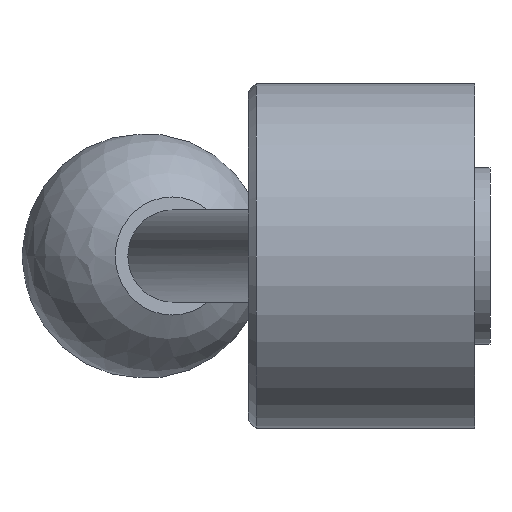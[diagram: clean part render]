
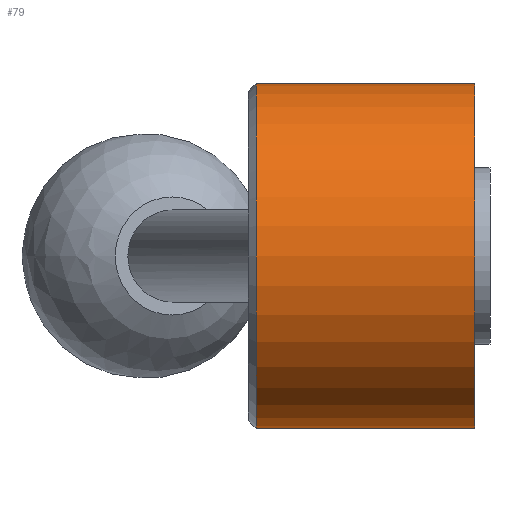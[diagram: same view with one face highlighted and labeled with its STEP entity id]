
A CAD part, left-side view. The second image highlights one B-rep face of the part: STEP entity #79.
In plain terms, the highlighted cylindrical face has radius 22.5 mm (diameter 45 mm), a full revolution.
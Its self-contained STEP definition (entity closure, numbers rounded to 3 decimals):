
#79 = ADVANCED_FACE( '', ( #103, #104, #105 ), #106, .T. );
#103 = FACE_OUTER_BOUND( '', #148, .T. );
#104 = FACE_BOUND( '', #149, .T. );
#105 = FACE_OUTER_BOUND( '', #150, .T. );
#106 = CYLINDRICAL_SURFACE( '', #151, 22.5 );
#148 = EDGE_LOOP( '', ( #201 ) );
#149 = EDGE_LOOP( '', ( #202 ) );
#150 = EDGE_LOOP( '', ( #203 ) );
#151 = AXIS2_PLACEMENT_3D( '', #204, #205, #206 );
#201 = ORIENTED_EDGE( '', *, *, #263, .F. );
#202 = ORIENTED_EDGE( '', *, *, #261, .F. );
#203 = ORIENTED_EDGE( '', *, *, #264, .T. );
#204 = CARTESIAN_POINT( '', ( 0., 0., 0. ) );
#205 = DIRECTION( '', ( 0., 1., 0. ) );
#206 = DIRECTION( '', ( 0., 0., -1. ) );
#261 = EDGE_CURVE( '', #280, #280, #281, .T. );
#263 = EDGE_CURVE( '', #284, #284, #285, .T. );
#264 = EDGE_CURVE( '', #286, #286, #287, .T. );
#280 = VERTEX_POINT( '', #308 );
#281 = B_SPLINE_CURVE_WITH_KNOTS( '', 3, ( #309, #310, #311, #312, #313, #314, #315, #316, #317, #318, #319, #320, #321, #322, #323, #324, #325, #326, #327, #328, #329, #330, #331, #332, #333, #334, #335, #336, #337, #338, #339, #340, #341, #342, #343, #344, #345, #346, #347, #348, #349, #350, #351, #352, #353, #354, #355, #356, #357, #358, #359, #360, #361, #362, #363, #364, #365, #366, #367, #368, #369, #370, #371, #372, #373, #374, #375, #376, #377, #378, #379, #380, #381, #382, #383, #384, #385, #386, #387, #388, #389, #390, #391, #392 ), .UNSPECIFIED., .T., .F., ( 2, 2, 2, 2, 2, 2, 2, 2, 2, 2, 2, 2, 2, 2, 2, 2, 2, 2, 2, 2, 2, 2, 2, 2, 2, 2, 2, 2, 2, 2, 2, 2, 2, 2, 2, 2, 2, 2, 2, 2, 2, 2, 2, 2 ), ( -0.001, 0., 0.001, 0.002, 0.002, 0.004, 0.004, 0.005, 0.006, 0.007, 0.008, 0.008, 0.009, 0.011, 0.012, 0.012, 0.013, 0.014, 0.014, 0.015, 0.016, 0.018, 0.018, 0.019, 0.02, 0.021, 0.022, 0.024, 0.024, 0.025, 0.026, 0.027, 0.028, 0.028, 0.029, 0.031, 0.032, 0.033, 0.034, 0.034, 0.035, 0.037, 0.038, 0.039 ), .UNSPECIFIED. );
#284 = VERTEX_POINT( '', #395 );
#285 = CIRCLE( '', #396, 22.5 );
#286 = VERTEX_POINT( '', #397 );
#287 = CIRCLE( '', #398, 22.5 );
#308 = CARTESIAN_POINT( '', ( 21.685, 20., 6. ) );
#309 = CARTESIAN_POINT( '', ( 21.685, 20.398, 6. ) );
#310 = CARTESIAN_POINT( '', ( 21.685, 19.602, 6. ) );
#311 = CARTESIAN_POINT( '', ( 21.696, 19.21, 5.961 ) );
#312 = CARTESIAN_POINT( '', ( 21.727, 18.633, 5.846 ) );
#313 = CARTESIAN_POINT( '', ( 21.74, 18.443, 5.798 ) );
#314 = CARTESIAN_POINT( '', ( 21.771, 18.065, 5.683 ) );
#315 = CARTESIAN_POINT( '', ( 21.788, 17.878, 5.616 ) );
#316 = CARTESIAN_POINT( '', ( 21.846, 17.334, 5.389 ) );
#317 = CARTESIAN_POINT( '', ( 21.891, 16.99, 5.205 ) );
#318 = CARTESIAN_POINT( '', ( 21.965, 16.502, 4.878 ) );
#319 = CARTESIAN_POINT( '', ( 21.991, 16.343, 4.761 ) );
#320 = CARTESIAN_POINT( '', ( 22.044, 16.039, 4.511 ) );
#321 = CARTESIAN_POINT( '', ( 22.07, 15.895, 4.38 ) );
#322 = CARTESIAN_POINT( '', ( 22.149, 15.482, 3.967 ) );
#323 = CARTESIAN_POINT( '', ( 22.202, 15.234, 3.666 ) );
#324 = CARTESIAN_POINT( '', ( 22.3, 14.795, 3.011 ) );
#325 = CARTESIAN_POINT( '', ( 22.345, 14.61, 2.664 ) );
#326 = CARTESIAN_POINT( '', ( 22.4, 14.385, 2.123 ) );
#327 = CARTESIAN_POINT( '', ( 22.417, 14.319, 1.939 ) );
#328 = CARTESIAN_POINT( '', ( 22.446, 14.204, 1.563 ) );
#329 = CARTESIAN_POINT( '', ( 22.459, 14.155, 1.369 ) );
#330 = CARTESIAN_POINT( '', ( 22.49, 14.039, 0.788 ) );
#331 = CARTESIAN_POINT( '', ( 22.5, 14., 0.397 ) );
#332 = CARTESIAN_POINT( '', ( 22.5, 14., -0.39 ) );
#333 = CARTESIAN_POINT( '', ( 22.489, 14.039, -0.789 ) );
#334 = CARTESIAN_POINT( '', ( 22.449, 14.193, -1.56 ) );
#335 = CARTESIAN_POINT( '', ( 22.42, 14.307, -1.935 ) );
#336 = CARTESIAN_POINT( '', ( 22.363, 14.534, -2.482 ) );
#337 = CARTESIAN_POINT( '', ( 22.343, 14.619, -2.661 ) );
#338 = CARTESIAN_POINT( '', ( 22.299, 14.804, -3.007 ) );
#339 = CARTESIAN_POINT( '', ( 22.276, 14.905, -3.174 ) );
#340 = CARTESIAN_POINT( '', ( 22.227, 15.121, -3.498 ) );
#341 = CARTESIAN_POINT( '', ( 22.202, 15.238, -3.655 ) );
#342 = CARTESIAN_POINT( '', ( 22.15, 15.486, -3.957 ) );
#343 = CARTESIAN_POINT( '', ( 22.123, 15.619, -4.104 ) );
#344 = CARTESIAN_POINT( '', ( 22.043, 16.035, -4.52 ) );
#345 = CARTESIAN_POINT( '', ( 21.99, 16.336, -4.767 ) );
#346 = CARTESIAN_POINT( '', ( 21.892, 16.984, -5.202 ) );
#347 = CARTESIAN_POINT( '', ( 21.845, 17.336, -5.39 ) );
#348 = CARTESIAN_POINT( '', ( 21.769, 18.059, -5.691 ) );
#349 = CARTESIAN_POINT( '', ( 21.738, 18.433, -5.805 ) );
#350 = CARTESIAN_POINT( '', ( 21.707, 19.013, -5.922 ) );
#351 = CARTESIAN_POINT( '', ( 21.699, 19.211, -5.951 ) );
#352 = CARTESIAN_POINT( '', ( 21.688, 19.605, -5.99 ) );
#353 = CARTESIAN_POINT( '', ( 21.685, 19.801, -6. ) );
#354 = CARTESIAN_POINT( '', ( 21.685, 20.39, -6. ) );
#355 = CARTESIAN_POINT( '', ( 21.696, 20.782, -5.962 ) );
#356 = CARTESIAN_POINT( '', ( 21.738, 21.562, -5.807 ) );
#357 = CARTESIAN_POINT( '', ( 21.769, 21.937, -5.692 ) );
#358 = CARTESIAN_POINT( '', ( 21.845, 22.66, -5.392 ) );
#359 = CARTESIAN_POINT( '', ( 21.891, 23.011, -5.204 ) );
#360 = CARTESIAN_POINT( '', ( 21.99, 23.662, -4.769 ) );
#361 = CARTESIAN_POINT( '', ( 22.043, 23.963, -4.522 ) );
#362 = CARTESIAN_POINT( '', ( 22.122, 24.378, -4.108 ) );
#363 = CARTESIAN_POINT( '', ( 22.149, 24.511, -3.961 ) );
#364 = CARTESIAN_POINT( '', ( 22.201, 24.76, -3.658 ) );
#365 = CARTESIAN_POINT( '', ( 22.227, 24.877, -3.501 ) );
#366 = CARTESIAN_POINT( '', ( 22.299, 25.202, -3.015 ) );
#367 = CARTESIAN_POINT( '', ( 22.344, 25.387, -2.671 ) );
#368 = CARTESIAN_POINT( '', ( 22.419, 25.691, -1.941 ) );
#369 = CARTESIAN_POINT( '', ( 22.449, 25.806, -1.564 ) );
#370 = CARTESIAN_POINT( '', ( 22.479, 25.921, -0.987 ) );
#371 = CARTESIAN_POINT( '', ( 22.487, 25.951, -0.793 ) );
#372 = CARTESIAN_POINT( '', ( 22.497, 25.99, -0.4 ) );
#373 = CARTESIAN_POINT( '', ( 22.5, 26., -0.201 ) );
#374 = CARTESIAN_POINT( '', ( 22.5, 26., 0.393 ) );
#375 = CARTESIAN_POINT( '', ( 22.49, 25.962, 0.784 ) );
#376 = CARTESIAN_POINT( '', ( 22.45, 25.808, 1.555 ) );
#377 = CARTESIAN_POINT( '', ( 22.419, 25.692, 1.938 ) );
#378 = CARTESIAN_POINT( '', ( 22.345, 25.391, 2.662 ) );
#379 = CARTESIAN_POINT( '', ( 22.301, 25.207, 3.007 ) );
#380 = CARTESIAN_POINT( '', ( 22.203, 24.77, 3.662 ) );
#381 = CARTESIAN_POINT( '', ( 22.15, 24.52, 3.965 ) );
#382 = CARTESIAN_POINT( '', ( 22.07, 24.107, 4.378 ) );
#383 = CARTESIAN_POINT( '', ( 22.044, 23.963, 4.509 ) );
#384 = CARTESIAN_POINT( '', ( 21.992, 23.661, 4.758 ) );
#385 = CARTESIAN_POINT( '', ( 21.966, 23.502, 4.876 ) );
#386 = CARTESIAN_POINT( '', ( 21.891, 23.012, 5.204 ) );
#387 = CARTESIAN_POINT( '', ( 21.846, 22.669, 5.388 ) );
#388 = CARTESIAN_POINT( '', ( 21.769, 21.946, 5.689 ) );
#389 = CARTESIAN_POINT( '', ( 21.738, 21.563, 5.806 ) );
#390 = CARTESIAN_POINT( '', ( 21.696, 20.791, 5.961 ) );
#391 = CARTESIAN_POINT( '', ( 21.685, 20.398, 6. ) );
#392 = CARTESIAN_POINT( '', ( 21.685, 19.602, 6. ) );
#395 = CARTESIAN_POINT( '', ( 0., 2., -22.5 ) );
#396 = AXIS2_PLACEMENT_3D( '', #426, #427, #428 );
#397 = CARTESIAN_POINT( '', ( 0., 30.5, -22.5 ) );
#398 = AXIS2_PLACEMENT_3D( '', #429, #430, #431 );
#426 = CARTESIAN_POINT( '', ( 0., 2., 0. ) );
#427 = DIRECTION( '', ( 0., -1., 0. ) );
#428 = DIRECTION( '', ( 0., 0., -1. ) );
#429 = CARTESIAN_POINT( '', ( 0., 30.5, 0. ) );
#430 = DIRECTION( '', ( 0., -1., 0. ) );
#431 = DIRECTION( '', ( 0., 0., -1. ) );
